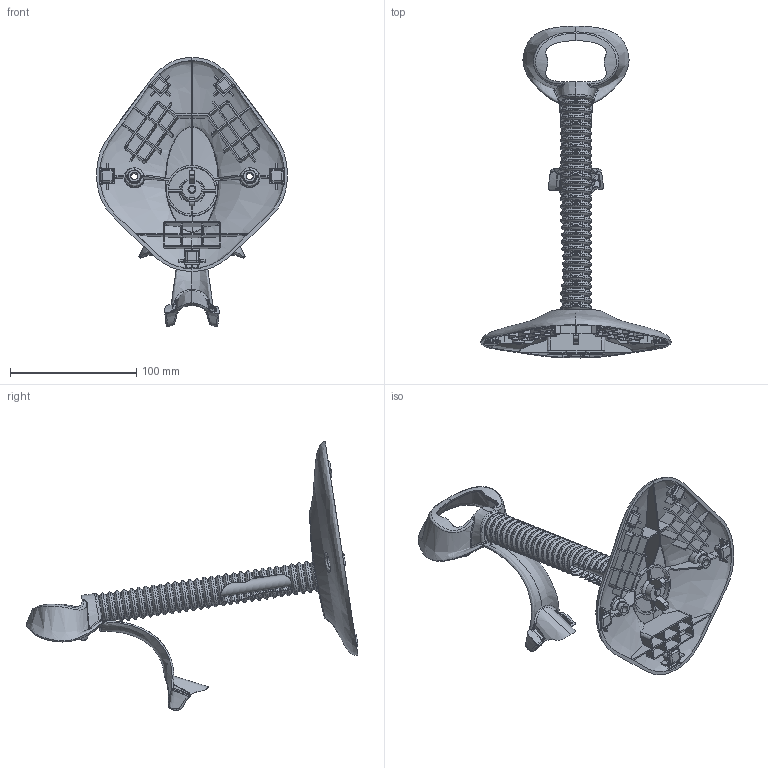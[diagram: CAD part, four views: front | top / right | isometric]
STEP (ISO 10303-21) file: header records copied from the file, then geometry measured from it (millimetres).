
FILE_DESCRIPTION((''),'2;1');
FILE_NAME('D:\Profiles\ftr438\Desktop\gooseneck.stp', '2009-09-16T16:56:33',('User'),('SDRC'),'I-DEAS Master Series','UNIX','Yes');
FILE_SCHEMA(('CONFIG_CONTROL_DESIGN', 'GEOMETRIC_VALIDATION_PROPERTIES_MIM','SHAPE_APPEARANCE_LAYER_MIM'));
Length unit declared in the file: inch
Bounding box: 151.46 x 263.25 x 213.36 mm (x, y, z)
Volume: 125735.9 mm3; surface area: 125790.8 mm2
Topology: 13 solids, 14 shells, 1573 faces, 3918 edges, 2359 vertices
Faces by surface type: bspline 1573
Entity records: 95553 total; most frequent: CARTESIAN_POINT 69237, ORIENTED_EDGE 7690, EDGE_CURVE 3847, OVER_RIDING_STYLED_ITEM 3800, VERTEX_POINT 2359, B_SPLINE_CURVE_WITH_KNOTS 2318, EDGE_LOOP 1647, FACE_OUTER_BOUND 1573
